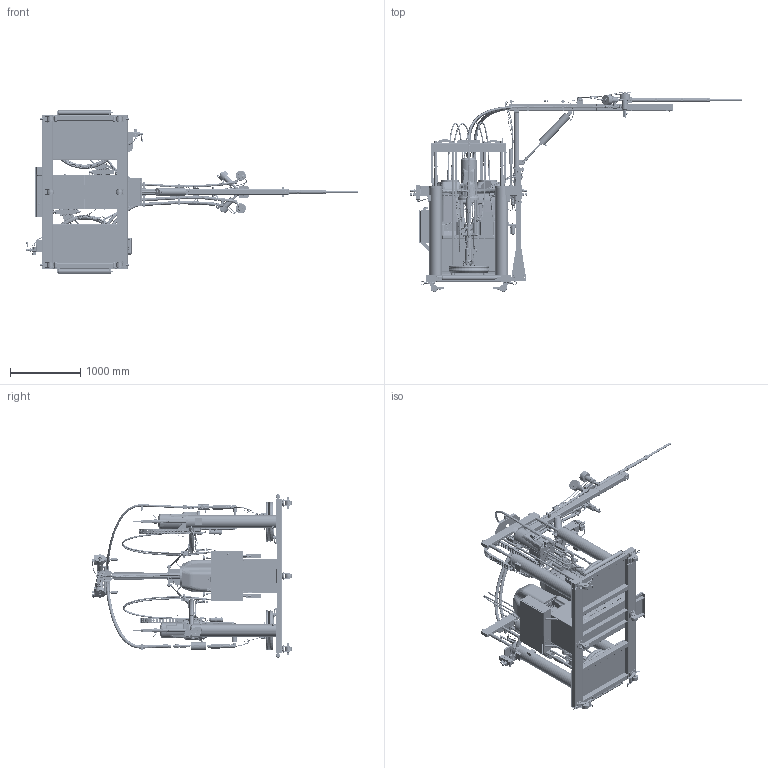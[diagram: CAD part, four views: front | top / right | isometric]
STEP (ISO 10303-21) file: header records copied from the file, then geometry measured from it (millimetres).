
FILE_DESCRIPTION((''),'2;1');
FILE_NAME('24F226-EN-H_PRT','2019-12-31T17:24:47',('qusrh3'),(''),'CREO PARAMETRIC BY PTC INC, 2019030','CREO PARAMETRIC BY PTC INC, 2019030','');
FILE_SCHEMA(('CONFIG_CONTROL_DESIGN'));
Products named in the file (1): 24F226-EN-H_PRT
Bounding box: 4728.45 x 2846.24 x 2325.12 mm (x, y, z)
Surface area: 45349856.3 mm2 (no closed solid volume)
Topology: 0 solids, 3932 shells, 17765 faces, 72252 edges, 55332 vertices
Faces by surface type: plane 8525, cylinder 5006, cone 1988, bspline 1428, torus 671, sphere 101, revolution 36, extrusion 10
Entity records: 930352 total; most frequent: CARTESIAN_POINT 376275, DIRECTION 109390, ORIENTED_EDGE 98891, EDGE_CURVE 72326, VERTEX_POINT 55440, VECTOR 38038, LINE 38028, AXIS2_PLACEMENT_3D 35658
